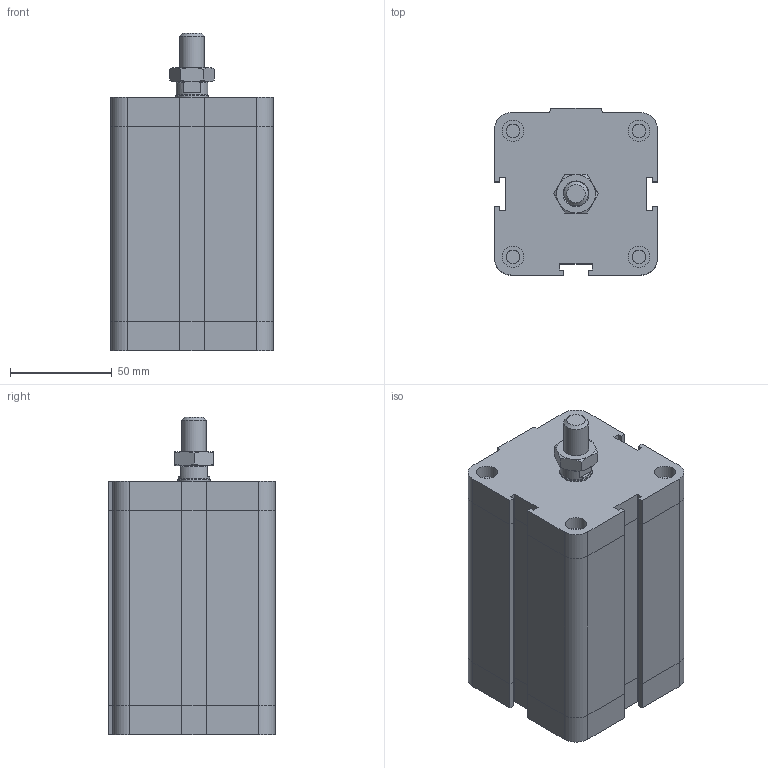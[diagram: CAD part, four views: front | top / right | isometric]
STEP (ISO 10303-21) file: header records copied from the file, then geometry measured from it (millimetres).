
FILE_DESCRIPTION((''),'2;1');
FILE_NAME('I:\Area Tecnica\Disegni\VARIE-3D\Componenti\EUROPE\15##_###_####_02_#\1581_63_0075_02_1.stp','2008-12-19T16:25:36',('rivolro1'),(''),'Autodesk Inventor 2009','Autodesk Inventor 2009','');
FILE_SCHEMA(('AUTOMOTIVE_DESIGN { 1 0 10303 214 1 1 1 1 }'));
Length unit declared in the file: millimetre
Products named in the file (4): 1581_63_0075_02_1; 1581_63_0075_01_1_C; 1561_63_0075_02_1_S; DBFM12
Assembly tree (3 placements, depth 2):
  1581_63_0075_02_1
    1581_63_0075_01_1_C
    1561_63_0075_02_1_S
    DBFM12
Bounding box: 80 x 82 x 156.5 mm (x, y, z)
Volume: 766037.7 mm3; surface area: 74781.7 mm2
Topology: 3 solids, 3 shells, 187 faces, 401 edges, 240 vertices
Faces by surface type: plane 121, bspline 24, cylinder 24, cone 18
Full cylindrical faces by diameter (mm): 6.647 x4, 10.5 x4, 10.8 x1, 12 x1, 15.6 x1, 16 x1
Entity records: 5080 total; most frequent: CARTESIAN_POINT 1096, DIRECTION 758, ORIENTED_EDGE 724, EDGE_CURVE 362, AXIS2_PLACEMENT_3D 254, VECTOR 250, LINE 250, EDGE_LOOP 238
